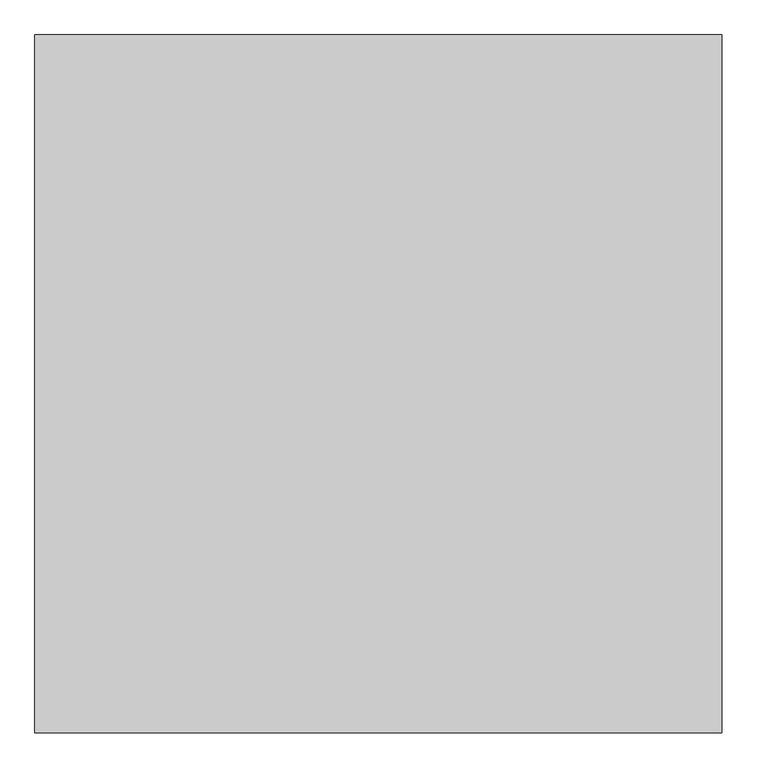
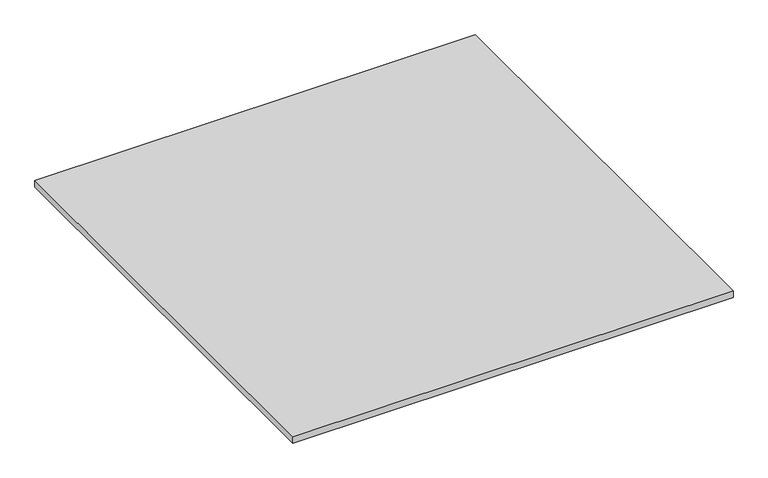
"""IFC4 building model written with IfcOpenShell, lengths in millimetres: proxy geometry, AERO^OFFICE 3_WALL HUNG-48 TACK."""

from ifc_helpers import new_model, si_unit, origin, origin_with_axes, place, context, project, spatial, polyline, outline, extrude, source, transform, mapped, element, save


def generic_models_572fd475(model_context):
    return source(origin(), model_context, "Body", "SweptSolid", [
        extrude(outline(polyline([(1219.2, 1238.25), (1219.2, 0.0), (0.0, 0.0), (0.0, 1238.25), (1219.2, 1238.25)])), origin_with_axes(), (0.0, 0.0, 1.0), 19.05),
    ])


if __name__ == "__main__":
    model = new_model("IFC4")
    model_context = context("Model", 3, world=origin())
    ifc_project = project(units=[si_unit("LENGTHUNIT", "METRE", prefix="MILLI")], contexts=[model_context])
    site = spatial("IfcSite", under=ifc_project)
    building = spatial("IfcBuilding", under=site)
    placement = place(None, origin())
    generic_models_shape = generic_models_572fd475(model_context)
    element("IfcBuildingElementProxy", 1, Name="AERO^OFFICE 3_WALL HUNG-48 TACK", ObjectType="AERO^OFFICE 3_WALL HUNG-48 TACK", at=placement, inside=building, context=model_context, shape_type="MappedRepresentation", body=[
        mapped(generic_models_shape, transform((0.0, 0.0, 0.0), x_axis=(1.0, 0.0, 0.0), y_axis=(0.0, 1.0, 0.0), z_axis=(0.0, 0.0, 1.0))),
    ])
    save(model, "model.ifc")
